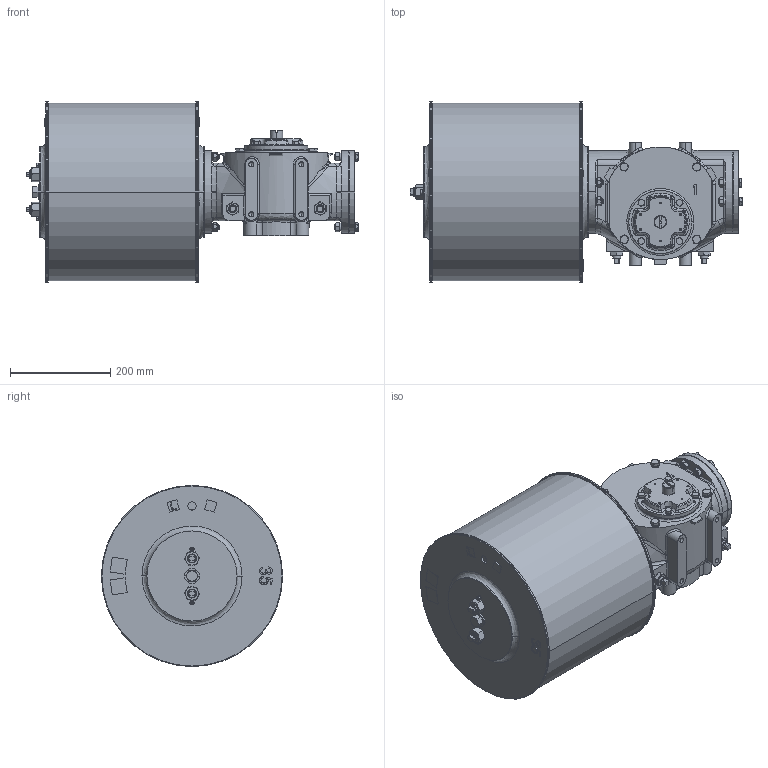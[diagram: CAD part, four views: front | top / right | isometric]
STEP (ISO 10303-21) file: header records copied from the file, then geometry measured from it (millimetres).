
FILE_DESCRIPTION (( 'STEP AP203' ), '1' );
FILE_NAME ('VTS1-350.STEP', '2023-01-01T07:36:36', ( '' ), ( '' ), 'SwSTEP 2.0', 'SolidWorks 2020', '' );
FILE_SCHEMA (( 'CONFIG_CONTROL_DESIGN' ));
Length unit declared in the file: millimetre
Products named in the file (1): VTS1-350
Bounding box: 663.58 x 362 x 362 mm (x, y, z)
Volume: 38927991.1 mm3; surface area: 1014911.9 mm2
Topology: 3 solids, 9 shells, 1642 faces, 4325 edges, 2743 vertices
Faces by surface type: plane 609, cylinder 439, cone 311, bspline 225, torus 30, sphere 28
Entity records: 75917 total; most frequent: CARTESIAN_POINT 38960, ORIENTED_EDGE 8506, DIRECTION 6502, EDGE_CURVE 4253, VERTEX_POINT 2743, AXIS2_PLACEMENT_3D 2490, EDGE_LOOP 1798, ADVANCED_FACE 1642
